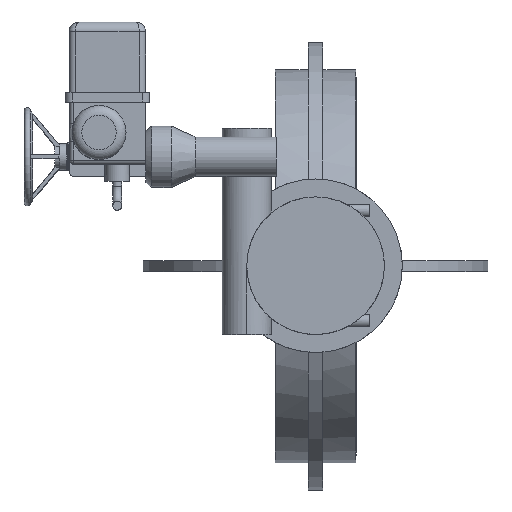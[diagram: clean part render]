
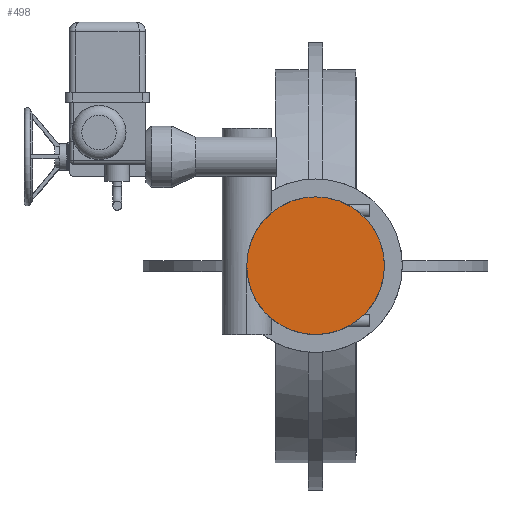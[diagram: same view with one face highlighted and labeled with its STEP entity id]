
A CAD part, top view. The second image highlights one B-rep face of the part: STEP entity #498.
In plain terms, the highlighted planar face has unit normal (0, 0, 1).
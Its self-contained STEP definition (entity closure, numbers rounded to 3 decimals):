
#498=ADVANCED_FACE('',(#7639),#7641,.T.);
#7639=FACE_BOUND('',#7640,.T.);
#7640=EDGE_LOOP('',(#14649));
#7641=PLANE('',#7642);
#7642=AXIS2_PLACEMENT_3D('',#7643,#7644,#7645);
#7643=CARTESIAN_POINT('',(0.,0.,766.));
#7644=DIRECTION('',(0.,0.,1.));
#7645=DIRECTION('',(0.,1.,0.));
#14649=ORIENTED_EDGE('',*,*,#18811,.F.);
#18811=EDGE_CURVE('',#21039,#21039,#21040,.T.);
#21039=VERTEX_POINT('',#25557);
#21040=CIRCLE('',#25558,140.);
#25557=CARTESIAN_POINT('',(0.,140.,766.));
#25558=AXIS2_PLACEMENT_3D('',#25559,#25560,#25561);
#25559=CARTESIAN_POINT('',(0.,0.,766.));
#25560=DIRECTION('',(0.,0.,-1.));
#25561=DIRECTION('',(0.,1.,0.));
